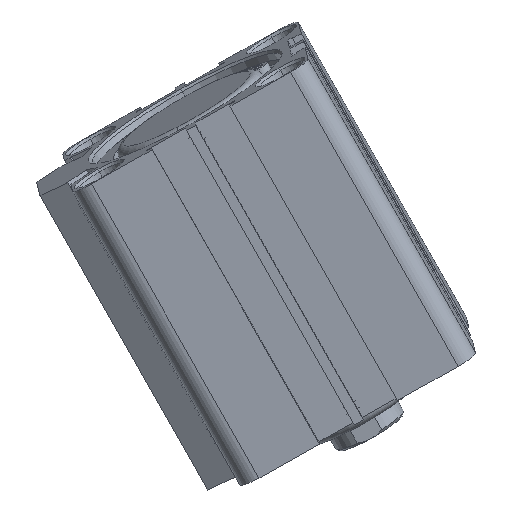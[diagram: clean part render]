
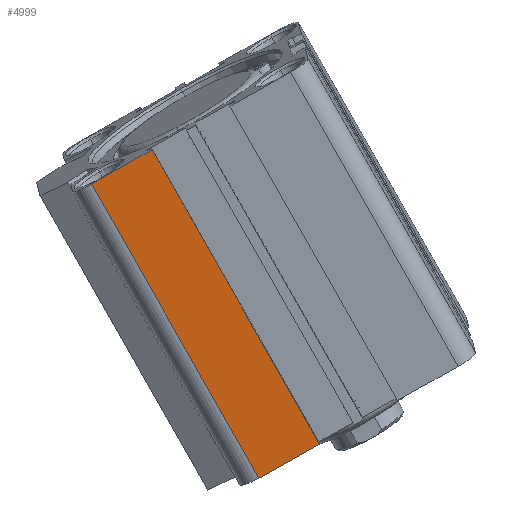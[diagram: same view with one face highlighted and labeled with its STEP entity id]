
A CAD part, left-side view. The second image highlights one B-rep face of the part: STEP entity #4999.
In plain terms, the highlighted planar face has unit normal (-0.987, -0.042, -0.158) as drawn and (-1, 0, 0) by its records, which use the part's own axes.
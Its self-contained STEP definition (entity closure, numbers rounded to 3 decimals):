
#399 = CARTESIAN_POINT ( 'NONE',  ( -26., 8.6, 0. ) ) ;
#1446 = VERTEX_POINT ( 'NONE', #399 ) ;
#1760 = EDGE_LOOP ( 'NONE', ( #7066, #14282, #6936, #3974 ) ) ;
#1846 = DIRECTION ( 'NONE',  ( 0., 1., 0. ) ) ;
#2053 = CARTESIAN_POINT ( 'NONE',  ( -26., 22., 66. ) ) ;
#2198 = LINE ( 'NONE', #16418, #2269 ) ;
#2269 = VECTOR ( 'NONE', #15982, 1000. ) ;
#2958 = FACE_OUTER_BOUND ( 'NONE', #1760, .T. ) ;
#3242 = DIRECTION ( 'NONE',  ( 0., 1., 0. ) ) ;
#3808 = LINE ( 'NONE', #15802, #10787 ) ;
#3950 = VERTEX_POINT ( 'NONE', #20046 ) ;
#3974 = ORIENTED_EDGE ( 'NONE', *, *, #7083, .T. ) ;
#4789 = VERTEX_POINT ( 'NONE', #13415 ) ;
#4999 = ADVANCED_FACE ( 'NONE', ( #2958 ), #16379, .T. ) ;
#5348 = LINE ( 'NONE', #17872, #5591 ) ;
#5591 = VECTOR ( 'NONE', #3242, 1000. ) ;
#5941 = LINE ( 'NONE', #16322, #12805 ) ;
#6936 = ORIENTED_EDGE ( 'NONE', *, *, #14199, .T. ) ;
#7066 = ORIENTED_EDGE ( 'NONE', *, *, #11903, .F. ) ;
#7083 = EDGE_CURVE ( 'NONE', #15885, #3950, #2198, .T. ) ;
#8272 = CARTESIAN_POINT ( 'NONE',  ( -26., 0., 66. ) ) ;
#8424 = EDGE_CURVE ( 'NONE', #4789, #1446, #5941, .T. ) ;
#10787 = VECTOR ( 'NONE', #1846, 1000. ) ;
#11903 = EDGE_CURVE ( 'NONE', #1446, #3950, #3808, .T. ) ;
#12805 = VECTOR ( 'NONE', #19679, 1000. ) ;
#13415 = CARTESIAN_POINT ( 'NONE',  ( -26., 8.6, 66. ) ) ;
#14199 = EDGE_CURVE ( 'NONE', #4789, #15885, #5348, .T. ) ;
#14282 = ORIENTED_EDGE ( 'NONE', *, *, #8424, .F. ) ;
#14899 = DIRECTION ( 'NONE',  ( -1., 0., 0. ) ) ;
#15328 = AXIS2_PLACEMENT_3D ( 'NONE', #8272, #14899, #17575 ) ;
#15802 = CARTESIAN_POINT ( 'NONE',  ( -26., 0., 0. ) ) ;
#15885 = VERTEX_POINT ( 'NONE', #2053 ) ;
#15982 = DIRECTION ( 'NONE',  ( 0., 0., -1. ) ) ;
#16322 = CARTESIAN_POINT ( 'NONE',  ( -26., 8.6, 66. ) ) ;
#16379 = PLANE ( 'NONE',  #15328 ) ;
#16418 = CARTESIAN_POINT ( 'NONE',  ( -26., 22., 66. ) ) ;
#17575 = DIRECTION ( 'NONE',  ( 0., -1., 0. ) ) ;
#17872 = CARTESIAN_POINT ( 'NONE',  ( -26., 0., 66. ) ) ;
#19679 = DIRECTION ( 'NONE',  ( 0., 0., -1. ) ) ;
#20046 = CARTESIAN_POINT ( 'NONE',  ( -26., 22., 0. ) ) ;
